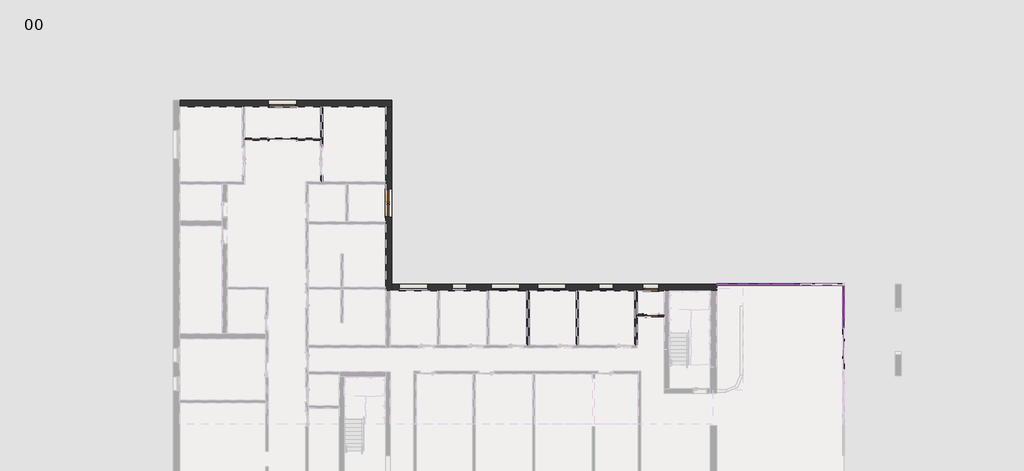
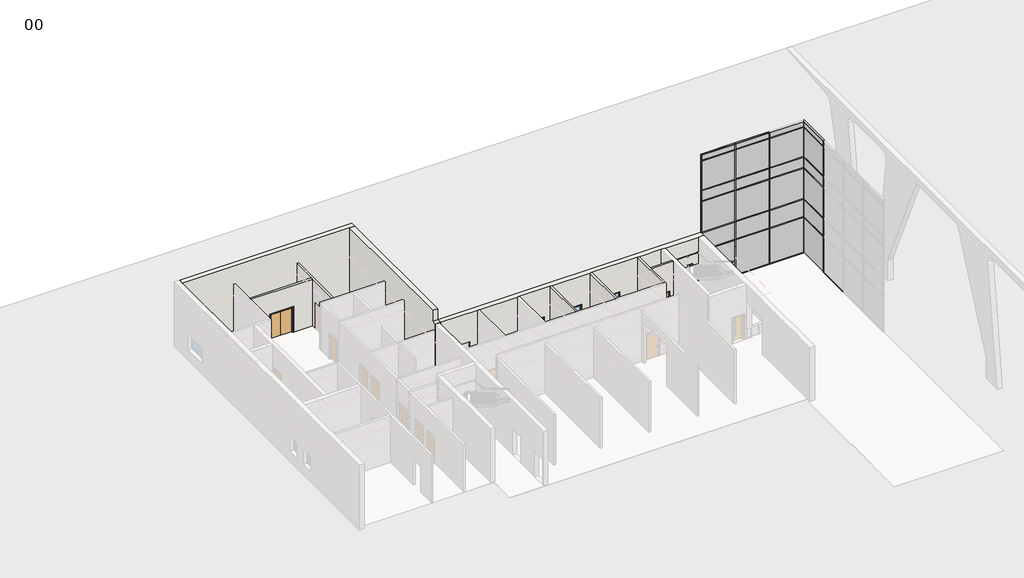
# One storey, part 7 of 11: 50 members, 24 plates, 9 walls, 5 doors, 3 windows.
"""IFC4 building model written with IfcOpenShell, lengths in millimetres."""

from ifc_helpers import new_model, si_unit, frame, origin, origin_with_axes, place, context, project, spatial, polyline, outline, extrude, faceted_brep, transform, mapped, element, save
from components import doors_concept_extdbl_1810x2110mm_68805f83, doors_concept_intdbl_1810x2110mm_1c066db9, doors_extsgl_flush_1010x2110mm_caf77e55, doors_intsgl_1_1010x2110mm_7920e6b8, doors_sco_extdbl_flush_1810x2110mm_3cdf6cdb, rectangular_mullion_curtainwallmullion_rectangular_generic_8ae0e668, rectangular_mullion_curtainwallmullion_rectangular_generic_15c16c91, rectangular_mullion_curtainwallmullion_rectangular_generic_08fbcc14, rectangular_mullion_curtainwallmullion_rectangular_generic_83e55909, rectangular_mullion_curtainwallmullion_rectangular_generic_5675a122, rectangular_mullion_curtainwallmullion_rectangular_generic_397fb318, rectangular_mullion_curtainwallmullion_rectangular_generic_55e77994, rectangular_mullion_curtainwallmullion_rectangular_generic_aee1ee25, rectangular_mullion_curtainwallmullion_rectangular_generic_ecbc4312, rectangular_mullion_curtainwallmullion_rectangular_generic_5eb3c60d, rectangular_mullion_curtainwallmullion_rectangular_generic_bd027367, rectangular_mullion_curtainwallmullion_rectangular_generic_2e425acd, rectangular_mullion_curtainwallmullion_rectangular_generic_12ad56c0, rectangular_mullion_curtainwallmullion_rectangular_generic_bd817207, rectangular_mullion_curtainwallmullion_rectangular_generic_654ac675, rectangular_mullion_curtainwallmullion_rectangular_generic_e7c47ca9, rectangular_mullion_curtainwallmullion_rectangular_generic_c0600e94, rectangular_mullion_curtainwallmullion_rectangular_generic_3bdb59d8, rectangular_mullion_curtainwallmullion_rectangular_generic_c640f651, rectangular_mullion_curtainwallmullion_rectangular_generic_afb0b622, rectangular_mullion_curtainwallmullion_rectangular_generic_b2d53351, rectangular_mullion_curtainwallmullion_rectangular_generic_d47b8a9d, system_panel_curtainpanel_glazed_34fb785a, system_panel_curtainpanel_glazed_e4a4eab4, system_panel_curtainpanel_glazed_add7ee21, system_panel_curtainpanel_glazed_62d472f1, system_panel_curtainpanel_glazed_085e24f9, system_panel_curtainpanel_glazed_61bd8d65, system_panel_curtainpanel_glazed_9c2ad216, system_panel_curtainpanel_glazed_ebc755d6, system_panel_curtainpanel_glazed_b0e91fb3, system_panel_curtainpanel_solid_dd3d5109, system_panel_curtainpanel_solid_473eca6b, system_panel_curtainpanel_solid_fc584997, system_panel_curtainpanel_solid_60141125, system_panel_curtainpanel_solid_58f7520c, system_panel_curtainpanel_solid_7c598b10, system_panel_curtainpanel_solid_5de49f81, system_panel_curtainpanel_solid_e1c9013e, system_panel_curtainpanel_solid_444add22, windows_concept_plain_sgl_1810x1210mm_7f7241d7, windows_concept_plain_sgl_910x1210mm_ef0b7ad2

model = new_model("IFC4")

# Units and contexts
model_context = context("Model", 3, world=origin())
ifc_project = project(units=[si_unit("LENGTHUNIT", "METRE", prefix="MILLI")], contexts=[model_context])

# Site, building, storey
site = spatial("IfcSite", under=ifc_project)
building = spatial("IfcBuilding", under=site)
storey = spatial("IfcBuildingStorey", under=building, Name="00", Elevation=0.0)

# Doors
placement = place(None, origin())
doors_concept_extdbl_1810x2110mm_shape = doors_concept_extdbl_1810x2110mm_68805f83(model_context)
element("IfcDoor", 1, ObjectType="Doors_Concept_ExtDbl : 1810x2110mm", at=placement, inside=storey, context=model_context, shape_type="MappedRepresentation", body=[
    mapped(doors_concept_extdbl_1810x2110mm_shape, transform((418436.3206883, -369614.0026386, 0.0), x_axis=(-1.0, 0.0, 0.0), y_axis=(0.0, -1.0, 0.0), z_axis=(0.0, 0.0, 1.0))),
])
doors_concept_intdbl_1810x2110mm_shape = doors_concept_intdbl_1810x2110mm_1c066db9(model_context)
element("IfcDoor", 2, ObjectType="Doors_Concept_IntDbl : 1810x2110mm", at=placement, inside=storey, context=model_context, shape_type="MappedRepresentation", body=[
    mapped(doors_concept_intdbl_1810x2110mm_shape, transform((418436.3206883, -371890.0026386, 0.0), x_axis=(-1.0, 0.0, 0.0), y_axis=(0.0, -1.0, 0.0), z_axis=(0.0, 0.0, 1.0))),
])
doors_extsgl_flush_1010x2110mm_shape = doors_extsgl_flush_1010x2110mm_caf77e55(model_context)
element("IfcDoor", 3, ObjectType="Doors_ExtSgl_Flush : 1010x2110mm", at=placement, inside=storey, context=model_context, shape_type="MappedRepresentation", body=[
    mapped(doors_extsgl_flush_1010x2110mm_shape, transform((441942.3206883, -381349.0026386, 0.0), x_axis=(1.0, 0.0, 0.0), y_axis=(0.0, 1.0, 0.0), z_axis=(0.0, 0.0, 1.0))),
])
doors_intsgl_1_1010x2110mm_shape = doors_intsgl_1_1010x2110mm_7920e6b8(model_context)
element("IfcDoor", 4, ObjectType="Doors_IntSgl_1 : 1010x2110mm", at=placement, inside=storey, context=model_context, shape_type="MappedRepresentation", body=[
    mapped(doors_intsgl_1_1010x2110mm_shape, transform((441942.3206883, -383125.0026386, 0.0), x_axis=(1.0, 0.0, 0.0), y_axis=(0.0, 1.0, 0.0), z_axis=(0.0, 0.0, 1.0))),
])
doors_sco_extdbl_flush_1810x2110mm_shape = doors_sco_extdbl_flush_1810x2110mm_3cdf6cdb(model_context)
element("IfcDoor", 5, ObjectType="Doors_SCO_ExtDbl_Flush : 1810x2110mm", at=placement, inside=storey, context=model_context, shape_type="MappedRepresentation", body=[
    mapped(doors_sco_extdbl_flush_1810x2110mm_shape, transform((425213.3206883, -375964.0026386, 0.0), x_axis=(0.0, 1.0, 0.0), y_axis=(-1.0, 0.0, 0.0), z_axis=(0.0, 0.0, 1.0))),
])

# Members
rectangular_mullion_curtainwallmullion_rectangular_generic_shape = rectangular_mullion_curtainwallmullion_rectangular_generic_8ae0e668(model_context)
element("IfcMember", 6, ObjectType="Rectangular Mullion : CurtainWallMullion_Rectangular_Generic", at=placement, inside=storey, context=model_context, shape_type="MappedRepresentation", body=[
    mapped(rectangular_mullion_curtainwallmullion_rectangular_generic_shape, transform((448817.3206884, -381170.0026386, 10486.7), x_axis=(1.0, 0.0, 0.0), y_axis=(0.0, -1.0, 0.0), z_axis=(0.0, 0.0, -1.0))),
])
element("IfcMember", 7, ObjectType="Rectangular Mullion : CurtainWallMullion_Rectangular_Generic", at=placement, inside=storey, context=model_context, shape_type="MappedRepresentation", body=[
    mapped(rectangular_mullion_curtainwallmullion_rectangular_generic_shape, transform((451519.3206882, -381170.0026386, 10486.7), x_axis=(1.0, 0.0, 0.0), y_axis=(0.0, -1.0, 0.0), z_axis=(0.0, 0.0, -1.0))),
])
element("IfcMember", 8, ObjectType="Rectangular Mullion : CurtainWallMullion_Rectangular_Generic", at=placement, inside=storey, context=model_context, shape_type="MappedRepresentation", body=[
    mapped(rectangular_mullion_curtainwallmullion_rectangular_generic_shape, transform((454246.3206883, -383909.6026389, 10486.7), x_axis=(0.0, -1.0, 0.0), y_axis=(-1.0, 0.0, 0.0), z_axis=(0.0, 0.0, -1.0))),
])
rectangular_mullion_curtainwallmullion_rectangular_generic_2_shape = rectangular_mullion_curtainwallmullion_rectangular_generic_15c16c91(model_context)
element("IfcMember", 9, ObjectType="Rectangular Mullion : CurtainWallMullion_Rectangular_Generic", at=placement, inside=storey, context=model_context, shape_type="MappedRepresentation", body=[
    mapped(rectangular_mullion_curtainwallmullion_rectangular_generic_2_shape, transform((446140.3206883, -381170.0026386, 10950.0), x_axis=(-1.0, 0.0, 0.0), y_axis=(0.0, -1.0, 0.0), z_axis=(0.0, 0.0, 1.0))),
])
rectangular_mullion_curtainwallmullion_rectangular_generic_3_shape = rectangular_mullion_curtainwallmullion_rectangular_generic_08fbcc14(model_context)
element("IfcMember", 10, ObjectType="Rectangular Mullion : CurtainWallMullion_Rectangular_Generic", at=placement, inside=storey, context=model_context, shape_type="MappedRepresentation", body=[
    mapped(rectangular_mullion_curtainwallmullion_rectangular_generic_3_shape, transform((454246.3206883, -383909.6026389, 8000.0), x_axis=(0.0, -1.0, 0.0), y_axis=(-1.0, 0.0, 0.0), z_axis=(0.0, 0.0, -1.0))),
])
element("IfcMember", 11, ObjectType="Rectangular Mullion : CurtainWallMullion_Rectangular_Generic", at=placement, inside=storey, context=model_context, shape_type="MappedRepresentation", body=[
    mapped(rectangular_mullion_curtainwallmullion_rectangular_generic_3_shape, transform((448817.3206884, -381170.0026386, 8000.0), x_axis=(1.0, 0.0, 0.0), y_axis=(0.0, -1.0, 0.0), z_axis=(0.0, 0.0, -1.0))),
])
element("IfcMember", 12, ObjectType="Rectangular Mullion : CurtainWallMullion_Rectangular_Generic", at=placement, inside=storey, context=model_context, shape_type="MappedRepresentation", body=[
    mapped(rectangular_mullion_curtainwallmullion_rectangular_generic_3_shape, transform((451519.3206882, -381170.0026386, 8000.0), x_axis=(1.0, 0.0, 0.0), y_axis=(0.0, -1.0, 0.0), z_axis=(0.0, 0.0, -1.0))),
])
rectangular_mullion_curtainwallmullion_rectangular_generic_4_shape = rectangular_mullion_curtainwallmullion_rectangular_generic_83e55909(model_context)
element("IfcMember", 13, ObjectType="Rectangular Mullion : CurtainWallMullion_Rectangular_Generic", at=placement, inside=storey, context=model_context, shape_type="MappedRepresentation", body=[
    mapped(rectangular_mullion_curtainwallmullion_rectangular_generic_4_shape, transform((446140.3206883, -381170.0026386, 10486.7), x_axis=(-1.0, 0.0, 0.0), y_axis=(0.0, -1.0, 0.0), z_axis=(0.0, 0.0, 1.0))),
])
rectangular_mullion_curtainwallmullion_rectangular_generic_5_shape = rectangular_mullion_curtainwallmullion_rectangular_generic_5675a122(model_context)
element("IfcMember", 14, ObjectType="Rectangular Mullion : CurtainWallMullion_Rectangular_Generic", at=placement, inside=storey, context=model_context, shape_type="MappedRepresentation", body=[
    mapped(rectangular_mullion_curtainwallmullion_rectangular_generic_5_shape, transform((448817.3206884, -381170.0026386, 50.0), x_axis=(1.0, 0.0, 0.0), y_axis=(0.0, -1.0, 0.0), z_axis=(0.0, 0.0, -1.0))),
])
element("IfcMember", 15, ObjectType="Rectangular Mullion : CurtainWallMullion_Rectangular_Generic", at=placement, inside=storey, context=model_context, shape_type="MappedRepresentation", body=[
    mapped(rectangular_mullion_curtainwallmullion_rectangular_generic_5_shape, transform((451519.3206882, -381170.0026386, 50.0), x_axis=(1.0, 0.0, 0.0), y_axis=(0.0, -1.0, 0.0), z_axis=(0.0, 0.0, -1.0))),
])
element("IfcMember", 16, ObjectType="Rectangular Mullion : CurtainWallMullion_Rectangular_Generic", at=placement, inside=storey, context=model_context, shape_type="MappedRepresentation", body=[
    mapped(rectangular_mullion_curtainwallmullion_rectangular_generic_5_shape, transform((454246.3206883, -383909.6026389, 50.0), x_axis=(0.0, -1.0, 0.0), y_axis=(-1.0, 0.0, 0.0), z_axis=(0.0, 0.0, -1.0))),
])
rectangular_mullion_curtainwallmullion_rectangular_generic_6_shape = rectangular_mullion_curtainwallmullion_rectangular_generic_397fb318(model_context)
element("IfcMember", 17, ObjectType="Rectangular Mullion : CurtainWallMullion_Rectangular_Generic", at=placement, inside=storey, context=model_context, shape_type="MappedRepresentation", body=[
    mapped(rectangular_mullion_curtainwallmullion_rectangular_generic_6_shape, transform((446140.3206883, -381170.0026386, 2425.0), x_axis=(-1.0, 0.0, 0.0), y_axis=(0.0, -1.0, 0.0), z_axis=(0.0, 0.0, 1.0))),
])
rectangular_mullion_curtainwallmullion_rectangular_generic_7_shape = rectangular_mullion_curtainwallmullion_rectangular_generic_55e77994(model_context)
element("IfcMember", 18, ObjectType="Rectangular Mullion : CurtainWallMullion_Rectangular_Generic", at=placement, inside=storey, context=model_context, shape_type="MappedRepresentation", body=[
    mapped(rectangular_mullion_curtainwallmullion_rectangular_generic_7_shape, transform((454246.3206883, -383909.6026389, 11000.0), x_axis=(0.0, 0.0, 1.0), y_axis=(-1.0, 0.0, 0.0), z_axis=(0.0, -1.0, 0.0))),
])
rectangular_mullion_curtainwallmullion_rectangular_generic_8_shape = rectangular_mullion_curtainwallmullion_rectangular_generic_aee1ee25(model_context)
element("IfcMember", 19, ObjectType="Rectangular Mullion : CurtainWallMullion_Rectangular_Generic", at=placement, inside=storey, context=model_context, shape_type="MappedRepresentation", body=[
    mapped(rectangular_mullion_curtainwallmullion_rectangular_generic_8_shape, transform((448817.3206884, -381170.0026386, 11000.0), x_axis=(0.0, 0.0, 1.0), y_axis=(0.0, -1.0, 0.0), z_axis=(1.0, 0.0, 0.0))),
])
rectangular_mullion_curtainwallmullion_rectangular_generic_9_shape = rectangular_mullion_curtainwallmullion_rectangular_generic_ecbc4312(model_context)
element("IfcMember", 20, ObjectType="Rectangular Mullion : CurtainWallMullion_Rectangular_Generic", at=placement, inside=storey, context=model_context, shape_type="MappedRepresentation", body=[
    mapped(rectangular_mullion_curtainwallmullion_rectangular_generic_9_shape, transform((451519.3206882, -381170.0026386, 11000.0), x_axis=(0.0, 0.0, 1.0), y_axis=(0.0, -1.0, 0.0), z_axis=(1.0, 0.0, 0.0))),
])
element("IfcMember", 21, ObjectType="Rectangular Mullion : CurtainWallMullion_Rectangular_Generic", at=placement, inside=storey, context=model_context, shape_type="MappedRepresentation", body=[
    mapped(rectangular_mullion_curtainwallmullion_rectangular_generic_8_shape, transform((446140.3206883, -381170.0026386, 0.0), x_axis=(0.0, 0.0, -1.0), y_axis=(0.0, -1.0, 0.0), z_axis=(-1.0, 0.0, 0.0))),
])
element("IfcMember", 22, ObjectType="Rectangular Mullion : CurtainWallMullion_Rectangular_Generic", at=placement, inside=storey, context=model_context, shape_type="MappedRepresentation", body=[
    mapped(rectangular_mullion_curtainwallmullion_rectangular_generic_9_shape, transform((448817.3206884, -381170.0026386, 0.0), x_axis=(0.0, 0.0, -1.0), y_axis=(0.0, -1.0, 0.0), z_axis=(-1.0, 0.0, 0.0))),
])
rectangular_mullion_curtainwallmullion_rectangular_generic_10_shape = rectangular_mullion_curtainwallmullion_rectangular_generic_5eb3c60d(model_context)
element("IfcMember", 23, ObjectType="Rectangular Mullion : CurtainWallMullion_Rectangular_Generic", at=placement, inside=storey, context=model_context, shape_type="MappedRepresentation", body=[
    mapped(rectangular_mullion_curtainwallmullion_rectangular_generic_10_shape, transform((451519.3206882, -381170.0026386, 0.0), x_axis=(0.0, 0.0, -1.0), y_axis=(0.0, -1.0, 0.0), z_axis=(-1.0, 0.0, 0.0))),
])
rectangular_mullion_curtainwallmullion_rectangular_generic_11_shape = rectangular_mullion_curtainwallmullion_rectangular_generic_bd027367(model_context)
element("IfcMember", 24, ObjectType="Rectangular Mullion : CurtainWallMullion_Rectangular_Generic", at=placement, inside=storey, context=model_context, shape_type="MappedRepresentation", body=[
    mapped(rectangular_mullion_curtainwallmullion_rectangular_generic_11_shape, transform((448792.3206884, -381170.0026386, 4500.0), x_axis=(0.0, 0.0, 1.0), y_axis=(0.0, -1.0, 0.0), z_axis=(1.0, 0.0, 0.0))),
])
element("IfcMember", 25, ObjectType="Rectangular Mullion : CurtainWallMullion_Rectangular_Generic", at=placement, inside=storey, context=model_context, shape_type="MappedRepresentation", body=[
    mapped(rectangular_mullion_curtainwallmullion_rectangular_generic_11_shape, transform((448792.3206884, -381170.0026386, 7100.0), x_axis=(0.0, 0.0, 1.0), y_axis=(0.0, -1.0, 0.0), z_axis=(1.0, 0.0, 0.0))),
])
element("IfcMember", 26, ObjectType="Rectangular Mullion : CurtainWallMullion_Rectangular_Generic", at=placement, inside=storey, context=model_context, shape_type="MappedRepresentation", body=[
    mapped(rectangular_mullion_curtainwallmullion_rectangular_generic_11_shape, transform((448792.3206884, -381170.0026386, 10486.7), x_axis=(0.0, 0.0, 1.0), y_axis=(0.0, -1.0, 0.0), z_axis=(1.0, 0.0, 0.0))),
])
element("IfcMember", 27, ObjectType="Rectangular Mullion : CurtainWallMullion_Rectangular_Generic", at=placement, inside=storey, context=model_context, shape_type="MappedRepresentation", body=[
    mapped(rectangular_mullion_curtainwallmullion_rectangular_generic_11_shape, transform((448792.3206884, -381170.0026386, 8000.0), x_axis=(0.0, 0.0, 1.0), y_axis=(0.0, -1.0, 0.0), z_axis=(1.0, 0.0, 0.0))),
])
element("IfcMember", 28, ObjectType="Rectangular Mullion : CurtainWallMullion_Rectangular_Generic", at=placement, inside=storey, context=model_context, shape_type="MappedRepresentation", body=[
    mapped(rectangular_mullion_curtainwallmullion_rectangular_generic_11_shape, transform((448792.3206884, -381170.0026386, 3000.0), x_axis=(0.0, 0.0, 1.0), y_axis=(0.0, -1.0, 0.0), z_axis=(1.0, 0.0, 0.0))),
])
rectangular_mullion_curtainwallmullion_rectangular_generic_12_shape = rectangular_mullion_curtainwallmullion_rectangular_generic_2e425acd(model_context)
element("IfcMember", 29, ObjectType="Rectangular Mullion : CurtainWallMullion_Rectangular_Generic", at=placement, inside=storey, context=model_context, shape_type="MappedRepresentation", body=[
    mapped(rectangular_mullion_curtainwallmullion_rectangular_generic_12_shape, transform((451494.3206882, -381170.0026386, 4500.0), x_axis=(0.0, 0.0, 1.0), y_axis=(0.0, -1.0, 0.0), z_axis=(1.0, 0.0, 0.0))),
])
element("IfcMember", 30, ObjectType="Rectangular Mullion : CurtainWallMullion_Rectangular_Generic", at=placement, inside=storey, context=model_context, shape_type="MappedRepresentation", body=[
    mapped(rectangular_mullion_curtainwallmullion_rectangular_generic_12_shape, transform((451494.3206882, -381170.0026386, 7100.0), x_axis=(0.0, 0.0, 1.0), y_axis=(0.0, -1.0, 0.0), z_axis=(1.0, 0.0, 0.0))),
])
element("IfcMember", 31, ObjectType="Rectangular Mullion : CurtainWallMullion_Rectangular_Generic", at=placement, inside=storey, context=model_context, shape_type="MappedRepresentation", body=[
    mapped(rectangular_mullion_curtainwallmullion_rectangular_generic_12_shape, transform((451494.3206882, -381170.0026386, 10486.7), x_axis=(0.0, 0.0, 1.0), y_axis=(0.0, -1.0, 0.0), z_axis=(1.0, 0.0, 0.0))),
])
element("IfcMember", 32, ObjectType="Rectangular Mullion : CurtainWallMullion_Rectangular_Generic", at=placement, inside=storey, context=model_context, shape_type="MappedRepresentation", body=[
    mapped(rectangular_mullion_curtainwallmullion_rectangular_generic_12_shape, transform((451494.3206882, -381170.0026386, 8000.0), x_axis=(0.0, 0.0, 1.0), y_axis=(0.0, -1.0, 0.0), z_axis=(1.0, 0.0, 0.0))),
])
element("IfcMember", 33, ObjectType="Rectangular Mullion : CurtainWallMullion_Rectangular_Generic", at=placement, inside=storey, context=model_context, shape_type="MappedRepresentation", body=[
    mapped(rectangular_mullion_curtainwallmullion_rectangular_generic_12_shape, transform((451494.3206882, -381170.0026386, 3000.0), x_axis=(0.0, 0.0, 1.0), y_axis=(0.0, -1.0, 0.0), z_axis=(1.0, 0.0, 0.0))),
])
rectangular_mullion_curtainwallmullion_rectangular_generic_13_shape = rectangular_mullion_curtainwallmullion_rectangular_generic_12ad56c0(model_context)
element("IfcMember", 34, ObjectType="Rectangular Mullion : CurtainWallMullion_Rectangular_Generic", at=placement, inside=storey, context=model_context, shape_type="MappedRepresentation", body=[
    mapped(rectangular_mullion_curtainwallmullion_rectangular_generic_13_shape, transform((454246.3206883, -383909.6026389, 0.0), x_axis=(0.0, 0.0, -1.0), y_axis=(-1.0, 0.0, 0.0), z_axis=(0.0, 1.0, 0.0))),
])
rectangular_mullion_curtainwallmullion_rectangular_generic_14_shape = rectangular_mullion_curtainwallmullion_rectangular_generic_bd817207(model_context)
element("IfcMember", 35, ObjectType="Rectangular Mullion : CurtainWallMullion_Rectangular_Generic", at=placement, inside=storey, context=model_context, shape_type="MappedRepresentation", body=[
    mapped(rectangular_mullion_curtainwallmullion_rectangular_generic_14_shape, transform((454246.3206883, -383884.6026389, 4500.0), x_axis=(0.0, 0.0, 1.0), y_axis=(-1.0, 0.0, 0.0), z_axis=(0.0, -1.0, 0.0))),
])
element("IfcMember", 36, ObjectType="Rectangular Mullion : CurtainWallMullion_Rectangular_Generic", at=placement, inside=storey, context=model_context, shape_type="MappedRepresentation", body=[
    mapped(rectangular_mullion_curtainwallmullion_rectangular_generic_14_shape, transform((454246.3206883, -383884.6026389, 7100.0), x_axis=(0.0, 0.0, 1.0), y_axis=(-1.0, 0.0, 0.0), z_axis=(0.0, -1.0, 0.0))),
])
element("IfcMember", 37, ObjectType="Rectangular Mullion : CurtainWallMullion_Rectangular_Generic", at=placement, inside=storey, context=model_context, shape_type="MappedRepresentation", body=[
    mapped(rectangular_mullion_curtainwallmullion_rectangular_generic_14_shape, transform((454246.3206883, -383884.6026389, 10486.7), x_axis=(0.0, 0.0, 1.0), y_axis=(-1.0, 0.0, 0.0), z_axis=(0.0, -1.0, 0.0))),
])
element("IfcMember", 38, ObjectType="Rectangular Mullion : CurtainWallMullion_Rectangular_Generic", at=placement, inside=storey, context=model_context, shape_type="MappedRepresentation", body=[
    mapped(rectangular_mullion_curtainwallmullion_rectangular_generic_14_shape, transform((454246.3206883, -383884.6026389, 8000.0), x_axis=(0.0, 0.0, 1.0), y_axis=(-1.0, 0.0, 0.0), z_axis=(0.0, -1.0, 0.0))),
])
element("IfcMember", 39, ObjectType="Rectangular Mullion : CurtainWallMullion_Rectangular_Generic", at=placement, inside=storey, context=model_context, shape_type="MappedRepresentation", body=[
    mapped(rectangular_mullion_curtainwallmullion_rectangular_generic_14_shape, transform((454246.3206883, -383884.6026389, 3000.0), x_axis=(0.0, 0.0, 1.0), y_axis=(-1.0, 0.0, 0.0), z_axis=(0.0, -1.0, 0.0))),
])
rectangular_mullion_curtainwallmullion_rectangular_generic_15_shape = rectangular_mullion_curtainwallmullion_rectangular_generic_654ac675(model_context)
element("IfcMember", 40, ObjectType="Rectangular Mullion : CurtainWallMullion_Rectangular_Generic", at=placement, inside=storey, context=model_context, shape_type="MappedRepresentation", body=[
    mapped(rectangular_mullion_curtainwallmullion_rectangular_generic_15_shape, transform((448817.3206884, -381170.0026386, 4500.0), x_axis=(1.0, 0.0, 0.0), y_axis=(0.0, -1.0, 0.0), z_axis=(0.0, 0.0, -1.0))),
])
element("IfcMember", 41, ObjectType="Rectangular Mullion : CurtainWallMullion_Rectangular_Generic", at=placement, inside=storey, context=model_context, shape_type="MappedRepresentation", body=[
    mapped(rectangular_mullion_curtainwallmullion_rectangular_generic_15_shape, transform((451519.3206882, -381170.0026386, 4500.0), x_axis=(1.0, 0.0, 0.0), y_axis=(0.0, -1.0, 0.0), z_axis=(0.0, 0.0, -1.0))),
])
element("IfcMember", 42, ObjectType="Rectangular Mullion : CurtainWallMullion_Rectangular_Generic", at=placement, inside=storey, context=model_context, shape_type="MappedRepresentation", body=[
    mapped(rectangular_mullion_curtainwallmullion_rectangular_generic_15_shape, transform((454246.3206883, -383909.6026389, 4500.0), x_axis=(0.0, -1.0, 0.0), y_axis=(-1.0, 0.0, 0.0), z_axis=(0.0, 0.0, -1.0))),
])
rectangular_mullion_curtainwallmullion_rectangular_generic_16_shape = rectangular_mullion_curtainwallmullion_rectangular_generic_e7c47ca9(model_context)
element("IfcMember", 43, ObjectType="Rectangular Mullion : CurtainWallMullion_Rectangular_Generic", at=placement, inside=storey, context=model_context, shape_type="MappedRepresentation", body=[
    mapped(rectangular_mullion_curtainwallmullion_rectangular_generic_16_shape, transform((446140.3206883, -381170.0026386, 7100.0), x_axis=(-1.0, 0.0, 0.0), y_axis=(0.0, -1.0, 0.0), z_axis=(0.0, 0.0, 1.0))),
])
rectangular_mullion_curtainwallmullion_rectangular_generic_17_shape = rectangular_mullion_curtainwallmullion_rectangular_generic_c0600e94(model_context)
element("IfcMember", 44, ObjectType="Rectangular Mullion : CurtainWallMullion_Rectangular_Generic", at=placement, inside=storey, context=model_context, shape_type="MappedRepresentation", body=[
    mapped(rectangular_mullion_curtainwallmullion_rectangular_generic_17_shape, transform((454246.3206883, -383909.6026389, 3000.0), x_axis=(0.0, -1.0, 0.0), y_axis=(-1.0, 0.0, 0.0), z_axis=(0.0, 0.0, -1.0))),
])
element("IfcMember", 45, ObjectType="Rectangular Mullion : CurtainWallMullion_Rectangular_Generic", at=placement, inside=storey, context=model_context, shape_type="MappedRepresentation", body=[
    mapped(rectangular_mullion_curtainwallmullion_rectangular_generic_17_shape, transform((448817.3206884, -381170.0026386, 3000.0), x_axis=(1.0, 0.0, 0.0), y_axis=(0.0, -1.0, 0.0), z_axis=(0.0, 0.0, -1.0))),
])
element("IfcMember", 46, ObjectType="Rectangular Mullion : CurtainWallMullion_Rectangular_Generic", at=placement, inside=storey, context=model_context, shape_type="MappedRepresentation", body=[
    mapped(rectangular_mullion_curtainwallmullion_rectangular_generic_17_shape, transform((451519.3206882, -381170.0026386, 3000.0), x_axis=(1.0, 0.0, 0.0), y_axis=(0.0, -1.0, 0.0), z_axis=(0.0, 0.0, -1.0))),
])
rectangular_mullion_curtainwallmullion_rectangular_generic_18_shape = rectangular_mullion_curtainwallmullion_rectangular_generic_3bdb59d8(model_context)
element("IfcMember", 47, ObjectType="Rectangular Mullion : CurtainWallMullion_Rectangular_Generic", at=placement, inside=storey, context=model_context, shape_type="MappedRepresentation", body=[
    mapped(rectangular_mullion_curtainwallmullion_rectangular_generic_18_shape, transform((446140.3206883, -381170.0026386, 4500.0), x_axis=(-1.0, 0.0, 0.0), y_axis=(0.0, -1.0, 0.0), z_axis=(0.0, 0.0, 1.0))),
])
rectangular_mullion_curtainwallmullion_rectangular_generic_19_shape = rectangular_mullion_curtainwallmullion_rectangular_generic_c640f651(model_context)
element("IfcMember", 48, ObjectType="Rectangular Mullion : CurtainWallMullion_Rectangular_Generic", at=placement, inside=storey, context=model_context, shape_type="MappedRepresentation", body=[
    mapped(rectangular_mullion_curtainwallmullion_rectangular_generic_19_shape, transform((448817.3206884, -381170.0026386, 7100.0), x_axis=(1.0, 0.0, 0.0), y_axis=(0.0, -1.0, 0.0), z_axis=(0.0, 0.0, -1.0))),
])
element("IfcMember", 49, ObjectType="Rectangular Mullion : CurtainWallMullion_Rectangular_Generic", at=placement, inside=storey, context=model_context, shape_type="MappedRepresentation", body=[
    mapped(rectangular_mullion_curtainwallmullion_rectangular_generic_19_shape, transform((451519.3206882, -381170.0026386, 7100.0), x_axis=(1.0, 0.0, 0.0), y_axis=(0.0, -1.0, 0.0), z_axis=(0.0, 0.0, -1.0))),
])
element("IfcMember", 50, ObjectType="Rectangular Mullion : CurtainWallMullion_Rectangular_Generic", at=placement, inside=storey, context=model_context, shape_type="MappedRepresentation", body=[
    mapped(rectangular_mullion_curtainwallmullion_rectangular_generic_19_shape, transform((454246.3206883, -383909.6026389, 7100.0), x_axis=(0.0, -1.0, 0.0), y_axis=(-1.0, 0.0, 0.0), z_axis=(0.0, 0.0, -1.0))),
])
rectangular_mullion_curtainwallmullion_rectangular_generic_20_shape = rectangular_mullion_curtainwallmullion_rectangular_generic_afb0b622(model_context)
element("IfcMember", 51, ObjectType="Rectangular Mullion : CurtainWallMullion_Rectangular_Generic", at=placement, inside=storey, context=model_context, shape_type="MappedRepresentation", body=[
    mapped(rectangular_mullion_curtainwallmullion_rectangular_generic_20_shape, transform((446140.3206883, -381170.0026386, 8000.0), x_axis=(-1.0, 0.0, 0.0), y_axis=(0.0, -1.0, 0.0), z_axis=(0.0, 0.0, 1.0))),
])
rectangular_mullion_curtainwallmullion_rectangular_generic_21_shape = rectangular_mullion_curtainwallmullion_rectangular_generic_b2d53351(model_context)
element("IfcMember", 52, ObjectType="Rectangular Mullion : CurtainWallMullion_Rectangular_Generic", at=placement, inside=storey, context=model_context, shape_type="MappedRepresentation", body=[
    mapped(rectangular_mullion_curtainwallmullion_rectangular_generic_21_shape, transform((448817.3206884, -381170.0026386, 2425.0), x_axis=(1.0, 0.0, 0.0), y_axis=(0.0, -1.0, 0.0), z_axis=(0.0, 0.0, -1.0))),
])
element("IfcMember", 53, ObjectType="Rectangular Mullion : CurtainWallMullion_Rectangular_Generic", at=placement, inside=storey, context=model_context, shape_type="MappedRepresentation", body=[
    mapped(rectangular_mullion_curtainwallmullion_rectangular_generic_21_shape, transform((451519.3206882, -381170.0026386, 2425.0), x_axis=(1.0, 0.0, 0.0), y_axis=(0.0, -1.0, 0.0), z_axis=(0.0, 0.0, -1.0))),
])
element("IfcMember", 54, ObjectType="Rectangular Mullion : CurtainWallMullion_Rectangular_Generic", at=placement, inside=storey, context=model_context, shape_type="MappedRepresentation", body=[
    mapped(rectangular_mullion_curtainwallmullion_rectangular_generic_21_shape, transform((454246.3206883, -383909.6026389, 2425.0), x_axis=(0.0, -1.0, 0.0), y_axis=(-1.0, 0.0, 0.0), z_axis=(0.0, 0.0, -1.0))),
])
rectangular_mullion_curtainwallmullion_rectangular_generic_22_shape = rectangular_mullion_curtainwallmullion_rectangular_generic_d47b8a9d(model_context)
element("IfcMember", 55, ObjectType="Rectangular Mullion : CurtainWallMullion_Rectangular_Generic", at=placement, inside=storey, context=model_context, shape_type="MappedRepresentation", body=[
    mapped(rectangular_mullion_curtainwallmullion_rectangular_generic_22_shape, transform((446140.3206883, -381170.0026386, 3000.0), x_axis=(-1.0, 0.0, 0.0), y_axis=(0.0, -1.0, 0.0), z_axis=(0.0, 0.0, 1.0))),
])

# Plates
system_panel_curtainpanel_glazed_shape = system_panel_curtainpanel_glazed_34fb785a(model_context)
element("IfcPlate", 56, ObjectType="System Panel : CurtainPanel_Glazed", at=placement, inside=storey, context=model_context, shape_type="MappedRepresentation", body=[
    mapped(system_panel_curtainpanel_glazed_shape, transform((454246.3206883, -382552.3026387, 8025.0), x_axis=(0.0, -1.0, 0.0), y_axis=(1.0, 0.0, 0.0), z_axis=(0.0, 0.0, 1.0))),
])
system_panel_curtainpanel_glazed_2_shape = system_panel_curtainpanel_glazed_e4a4eab4(model_context)
element("IfcPlate", 57, ObjectType="System Panel : CurtainPanel_Glazed", at=placement, inside=storey, context=model_context, shape_type="MappedRepresentation", body=[
    mapped(system_panel_curtainpanel_glazed_2_shape, transform((447491.3206884, -381170.0026386, 8025.0), x_axis=(1.0, 0.0, 0.0), y_axis=(0.0, 1.0, 0.0), z_axis=(0.0, 0.0, 1.0))),
])
system_panel_curtainpanel_glazed_3_shape = system_panel_curtainpanel_glazed_add7ee21(model_context)
element("IfcPlate", 58, ObjectType="System Panel : CurtainPanel_Glazed", at=placement, inside=storey, context=model_context, shape_type="MappedRepresentation", body=[
    mapped(system_panel_curtainpanel_glazed_3_shape, transform((450168.3206883, -381170.0026386, 8025.0), x_axis=(1.0, 0.0, 0.0), y_axis=(0.0, 1.0, 0.0), z_axis=(0.0, 0.0, 1.0))),
])
element("IfcPlate", 59, ObjectType="System Panel : CurtainPanel_Glazed", at=placement, inside=storey, context=model_context, shape_type="MappedRepresentation", body=[
    mapped(system_panel_curtainpanel_glazed_3_shape, transform((452870.3206883, -381170.0026386, 8025.0), x_axis=(1.0, 0.0, 0.0), y_axis=(0.0, 1.0, 0.0), z_axis=(0.0, 0.0, 1.0))),
])
system_panel_curtainpanel_glazed_4_shape = system_panel_curtainpanel_glazed_62d472f1(model_context)
element("IfcPlate", 60, ObjectType="System Panel : CurtainPanel_Glazed", at=placement, inside=storey, context=model_context, shape_type="MappedRepresentation", body=[
    mapped(system_panel_curtainpanel_glazed_4_shape, transform((454246.3206883, -382552.3026387, 50.0), x_axis=(0.0, -1.0, 0.0), y_axis=(1.0, 0.0, 0.0), z_axis=(0.0, 0.0, 1.0))),
])
system_panel_curtainpanel_glazed_5_shape = system_panel_curtainpanel_glazed_085e24f9(model_context)
element("IfcPlate", 61, ObjectType="System Panel : CurtainPanel_Glazed", at=placement, inside=storey, context=model_context, shape_type="MappedRepresentation", body=[
    mapped(system_panel_curtainpanel_glazed_5_shape, transform((447491.3206884, -381170.0026386, 50.0), x_axis=(1.0, 0.0, 0.0), y_axis=(0.0, 1.0, 0.0), z_axis=(0.0, 0.0, 1.0))),
])
system_panel_curtainpanel_glazed_6_shape = system_panel_curtainpanel_glazed_61bd8d65(model_context)
element("IfcPlate", 62, ObjectType="System Panel : CurtainPanel_Glazed", at=placement, inside=storey, context=model_context, shape_type="MappedRepresentation", body=[
    mapped(system_panel_curtainpanel_glazed_6_shape, transform((450168.3206883, -381170.0026386, 50.0), x_axis=(1.0, 0.0, 0.0), y_axis=(0.0, 1.0, 0.0), z_axis=(0.0, 0.0, 1.0))),
])
element("IfcPlate", 63, ObjectType="System Panel : CurtainPanel_Glazed", at=placement, inside=storey, context=model_context, shape_type="MappedRepresentation", body=[
    mapped(system_panel_curtainpanel_glazed_6_shape, transform((452870.3206883, -381170.0026386, 50.0), x_axis=(1.0, 0.0, 0.0), y_axis=(0.0, 1.0, 0.0), z_axis=(0.0, 0.0, 1.0))),
])
system_panel_curtainpanel_glazed_7_shape = system_panel_curtainpanel_glazed_9c2ad216(model_context)
element("IfcPlate", 64, ObjectType="System Panel : CurtainPanel_Glazed", at=placement, inside=storey, context=model_context, shape_type="MappedRepresentation", body=[
    mapped(system_panel_curtainpanel_glazed_7_shape, transform((454246.3206883, -382552.3026387, 4525.0), x_axis=(0.0, -1.0, 0.0), y_axis=(1.0, 0.0, 0.0), z_axis=(0.0, 0.0, 1.0))),
])
system_panel_curtainpanel_glazed_8_shape = system_panel_curtainpanel_glazed_ebc755d6(model_context)
element("IfcPlate", 65, ObjectType="System Panel : CurtainPanel_Glazed", at=placement, inside=storey, context=model_context, shape_type="MappedRepresentation", body=[
    mapped(system_panel_curtainpanel_glazed_8_shape, transform((447491.3206884, -381170.0026386, 4525.0), x_axis=(1.0, 0.0, 0.0), y_axis=(0.0, 1.0, 0.0), z_axis=(0.0, 0.0, 1.0))),
])
system_panel_curtainpanel_glazed_9_shape = system_panel_curtainpanel_glazed_b0e91fb3(model_context)
element("IfcPlate", 66, ObjectType="System Panel : CurtainPanel_Glazed", at=placement, inside=storey, context=model_context, shape_type="MappedRepresentation", body=[
    mapped(system_panel_curtainpanel_glazed_9_shape, transform((450168.3206883, -381170.0026386, 4525.0), x_axis=(1.0, 0.0, 0.0), y_axis=(0.0, 1.0, 0.0), z_axis=(0.0, 0.0, 1.0))),
])
element("IfcPlate", 67, ObjectType="System Panel : CurtainPanel_Glazed", at=placement, inside=storey, context=model_context, shape_type="MappedRepresentation", body=[
    mapped(system_panel_curtainpanel_glazed_9_shape, transform((452870.3206883, -381170.0026386, 4525.0), x_axis=(1.0, 0.0, 0.0), y_axis=(0.0, 1.0, 0.0), z_axis=(0.0, 0.0, 1.0))),
])
system_panel_curtainpanel_solid_shape = system_panel_curtainpanel_solid_dd3d5109(model_context)
element("IfcPlate", 68, ObjectType="System Panel : CurtainPanel_Solid", at=placement, inside=storey, context=model_context, shape_type="MappedRepresentation", body=[
    mapped(system_panel_curtainpanel_solid_shape, transform((447491.3206884, -381170.0026386, 10511.7), x_axis=(1.0, 0.0, 0.0), y_axis=(0.0, 1.0, 0.0), z_axis=(0.0, 0.0, 1.0))),
])
system_panel_curtainpanel_solid_2_shape = system_panel_curtainpanel_solid_473eca6b(model_context)
element("IfcPlate", 69, ObjectType="System Panel : CurtainPanel_Solid", at=placement, inside=storey, context=model_context, shape_type="MappedRepresentation", body=[
    mapped(system_panel_curtainpanel_solid_2_shape, transform((450168.3206883, -381170.0026386, 10511.7), x_axis=(1.0, 0.0, 0.0), y_axis=(0.0, 1.0, 0.0), z_axis=(0.0, 0.0, 1.0))),
])
element("IfcPlate", 70, ObjectType="System Panel : CurtainPanel_Solid", at=placement, inside=storey, context=model_context, shape_type="MappedRepresentation", body=[
    mapped(system_panel_curtainpanel_solid_2_shape, transform((452870.3206883, -381170.0026386, 10511.7), x_axis=(1.0, 0.0, 0.0), y_axis=(0.0, 1.0, 0.0), z_axis=(0.0, 0.0, 1.0))),
])
system_panel_curtainpanel_solid_3_shape = system_panel_curtainpanel_solid_fc584997(model_context)
element("IfcPlate", 71, ObjectType="System Panel : CurtainPanel_Solid", at=placement, inside=storey, context=model_context, shape_type="MappedRepresentation", body=[
    mapped(system_panel_curtainpanel_solid_3_shape, transform((454246.3206883, -382552.3026387, 10511.7), x_axis=(0.0, -1.0, 0.0), y_axis=(1.0, 0.0, 0.0), z_axis=(0.0, 0.0, 1.0))),
])
system_panel_curtainpanel_solid_4_shape = system_panel_curtainpanel_solid_60141125(model_context)
element("IfcPlate", 72, ObjectType="System Panel : CurtainPanel_Solid", at=placement, inside=storey, context=model_context, shape_type="MappedRepresentation", body=[
    mapped(system_panel_curtainpanel_solid_4_shape, transform((454246.3206883, -382552.3026387, 3025.0), x_axis=(0.0, -1.0, 0.0), y_axis=(1.0, 0.0, 0.0), z_axis=(0.0, 0.0, 1.0))),
])
system_panel_curtainpanel_solid_5_shape = system_panel_curtainpanel_solid_58f7520c(model_context)
element("IfcPlate", 73, ObjectType="System Panel : CurtainPanel_Solid", at=placement, inside=storey, context=model_context, shape_type="MappedRepresentation", body=[
    mapped(system_panel_curtainpanel_solid_5_shape, transform((447491.3206884, -381170.0026386, 3025.0), x_axis=(1.0, 0.0, 0.0), y_axis=(0.0, 1.0, 0.0), z_axis=(0.0, 0.0, 1.0))),
])
system_panel_curtainpanel_solid_6_shape = system_panel_curtainpanel_solid_7c598b10(model_context)
element("IfcPlate", 74, ObjectType="System Panel : CurtainPanel_Solid", at=placement, inside=storey, context=model_context, shape_type="MappedRepresentation", body=[
    mapped(system_panel_curtainpanel_solid_6_shape, transform((450168.3206883, -381170.0026386, 3025.0), x_axis=(1.0, 0.0, 0.0), y_axis=(0.0, 1.0, 0.0), z_axis=(0.0, 0.0, 1.0))),
])
element("IfcPlate", 75, ObjectType="System Panel : CurtainPanel_Solid", at=placement, inside=storey, context=model_context, shape_type="MappedRepresentation", body=[
    mapped(system_panel_curtainpanel_solid_6_shape, transform((452870.3206883, -381170.0026386, 3025.0), x_axis=(1.0, 0.0, 0.0), y_axis=(0.0, 1.0, 0.0), z_axis=(0.0, 0.0, 1.0))),
])
system_panel_curtainpanel_solid_7_shape = system_panel_curtainpanel_solid_5de49f81(model_context)
element("IfcPlate", 76, ObjectType="System Panel : CurtainPanel_Solid", at=placement, inside=storey, context=model_context, shape_type="MappedRepresentation", body=[
    mapped(system_panel_curtainpanel_solid_7_shape, transform((454246.3206883, -382552.3026387, 7125.0), x_axis=(0.0, -1.0, 0.0), y_axis=(1.0, 0.0, 0.0), z_axis=(0.0, 0.0, 1.0))),
])
system_panel_curtainpanel_solid_8_shape = system_panel_curtainpanel_solid_e1c9013e(model_context)
element("IfcPlate", 77, ObjectType="System Panel : CurtainPanel_Solid", at=placement, inside=storey, context=model_context, shape_type="MappedRepresentation", body=[
    mapped(system_panel_curtainpanel_solid_8_shape, transform((447491.3206884, -381170.0026386, 7125.0), x_axis=(1.0, 0.0, 0.0), y_axis=(0.0, 1.0, 0.0), z_axis=(0.0, 0.0, 1.0))),
])
system_panel_curtainpanel_solid_9_shape = system_panel_curtainpanel_solid_444add22(model_context)
element("IfcPlate", 78, ObjectType="System Panel : CurtainPanel_Solid", at=placement, inside=storey, context=model_context, shape_type="MappedRepresentation", body=[
    mapped(system_panel_curtainpanel_solid_9_shape, transform((450168.3206883, -381170.0026386, 7125.0), x_axis=(1.0, 0.0, 0.0), y_axis=(0.0, 1.0, 0.0), z_axis=(0.0, 0.0, 1.0))),
])
element("IfcPlate", 79, ObjectType="System Panel : CurtainPanel_Solid", at=placement, inside=storey, context=model_context, shape_type="MappedRepresentation", body=[
    mapped(system_panel_curtainpanel_solid_9_shape, transform((452870.3206883, -381170.0026386, 7125.0), x_axis=(1.0, 0.0, 0.0), y_axis=(0.0, 1.0, 0.0), z_axis=(0.0, 0.0, 1.0))),
])

# Walls
element("IfcWall", 80, ObjectType="Wall_Exterior_WSUK", at=placement, inside=storey, context=model_context, shape_type="Brep", body=[
    faceted_brep([(411860.3206883, -369815.0026386, -1000.0), (425012.3206883, -369815.0026386, -1000.0), (425414.3206883, -369815.0026386, -1000.0), (425414.3206883, -369815.0026386, 5400.0), (425012.3206883, -369815.0026386, 5400.0), (411860.3206883, -369815.0026386, 5400.0), (419341.3206883, -369815.0026386, 2110.0), (419341.3206883, -369815.0026386, 0.0), (417531.3206883, -369815.0026386, 0.0), (417531.3206883, -369815.0026386, 2110.0), (425414.3206883, -369413.0026386, -1000.0), (411860.3206883, -369413.0026386, -1000.0), (411860.3206883, -369413.0026386, 5400.0), (425414.3206883, -369413.0026386, 5400.0), (419341.3206883, -369413.0026386, 0.0), (419341.3206883, -369413.0026386, 2110.0), (417531.3206883, -369413.0026386, 2110.0), (417531.3206883, -369413.0026386, 0.0)], [[[0, 1, 2, 3, 4, 5], [6, 7, 8, 9]], [[10, 11, 12, 13], [14, 15, 16, 17]], [[2, 1, 0, 11, 10]], [[5, 4, 3, 13, 12]], [[3, 2, 10, 13]], [[6, 15, 14, 7]], [[7, 14, 17, 8]], [[8, 17, 16, 9]], [[15, 6, 9, 16]], [[0, 5, 12, 11]]]),
])
element("IfcWall", 81, ObjectType="Wall_Exterior_WSUK", at=placement, inside=storey, context=model_context, shape_type="Brep", body=[
    faceted_brep([(425012.3206883, -369815.0026386, -1000.0), (425012.3206883, -381550.0026386, -1000.0), (425012.3206883, -381550.0026386, 4500.0), (425012.3206883, -381148.0026386, 4500.0), (425012.3206883, -381148.0026386, 5400.0), (425012.3206883, -369815.0026386, 5400.0), (425012.3206883, -376844.0026386, 0.0), (425012.3206883, -375084.0026386, 0.0), (425012.3206883, -375084.0026386, 2110.0), (425012.3206883, -376844.0026386, 2110.0), (425414.3206883, -381550.0026386, -1000.0), (425414.3206883, -381148.0026386, -1000.0), (425414.3206883, -369815.0026386, -1000.0), (425414.3206883, -369815.0026386, 5400.0), (425414.3206883, -381148.0026386, 5400.0), (425414.3206883, -381148.0026386, 4500.0), (425414.3206883, -381550.0026386, 4500.0), (425414.3206883, -375059.0026386, 2110.0), (425414.3206883, -375059.0026386, 0.0), (425414.3206883, -376869.0026386, 0.0), (425414.3206883, -376869.0026386, 2110.0), (425322.3206883, -381550.0026386, -1000.0), (425114.8206883, -376869.0026386, 2110.0), (425114.8206883, -376869.0026386, 0.0), (425114.8206883, -376844.0026386, 0.0), (425114.8206883, -376844.0026386, 2110.0), (425114.8206883, -375059.0026386, 0.0), (425114.8206883, -375059.0026386, 2110.0), (425114.8206883, -375084.0026386, 2110.0), (425114.8206883, -375084.0026386, 0.0), (425322.3206883, -381550.0026386, 4500.0)], [[[0, 1, 2, 3, 4, 5], [6, 7, 8, 9]], [[10, 11, 12, 13, 14, 15, 16], [17, 18, 19, 20]], [[1, 0, 12, 11, 10, 21]], [[5, 4, 14, 13]], [[0, 5, 13, 12]], [[22, 23, 24, 25]], [[26, 27, 28, 29]], [[27, 26, 18, 17]], [[24, 23, 19, 18, 26, 29, 7, 6]], [[23, 22, 20, 19]], [[22, 25, 9, 8, 28, 27, 17, 20]], [[25, 24, 6, 9]], [[29, 28, 8, 7]], [[3, 2, 30, 16, 15]], [[1, 21, 10, 16, 30, 2]], [[14, 4, 3, 15]]]),
])
element("IfcWall", 82, ObjectType="Wall_Exterior_WSUK", at=placement, inside=storey, context=model_context, shape_type="Brep", body=[
    faceted_brep([(425414.3206883, -381550.0026386, 4500.0), (425414.3206883, -381550.0026386, -1000.0), (442792.3206883, -381550.0026386, -1000.0), (443102.3206883, -381550.0026386, -1000.0), (445738.3206883, -381550.0026386, -1000.0), (446140.3206883, -381550.0026386, -1000.0), (446140.3206883, -381550.0026386, 4500.0), (445738.3206883, -381550.0026386, 4500.0), (443102.3206883, -381550.0026386, 4500.0), (442792.3206883, -381550.0026386, 4500.0), (441072.3206883, -381550.0026386, 4500.0), (440922.3206883, -381550.0026386, 4500.0), (437322.3206883, -381550.0026386, 4500.0), (437172.3206883, -381550.0026386, 4500.0), (434172.3206883, -381550.0026386, 4500.0), (434022.3206883, -381550.0026386, 4500.0), (431622.3206883, -381550.0026386, 4500.0), (431472.3206883, -381550.0026386, 4500.0), (428472.3206883, -381550.0026386, 4500.0), (428322.3206883, -381550.0026386, 4500.0), (441437.3206883, -381550.0026386, 2110.0), (442447.3206883, -381550.0026386, 2110.0), (442447.3206883, -381550.0026386, 0.0), (441437.3206883, -381550.0026386, 0.0), (427693.3206883, -381550.0026386, 2110.0), (427693.3206883, -381550.0026386, 900.0), (425883.3206883, -381550.0026386, 900.0), (425883.3206883, -381550.0026386, 2110.0), (430185.3206883, -381550.0026386, 2110.0), (430185.3206883, -381550.0026386, 900.0), (429275.3206883, -381550.0026386, 900.0), (429275.3206883, -381550.0026386, 2110.0), (433577.3206883, -381550.0026386, 2110.0), (433577.3206883, -381550.0026386, 900.0), (431767.3206883, -381550.0026386, 900.0), (431767.3206883, -381550.0026386, 2110.0), (436519.3206883, -381550.0026386, 2110.0), (436519.3206883, -381550.0026386, 900.0), (434709.3206883, -381550.0026386, 900.0), (434709.3206883, -381550.0026386, 2110.0), (439531.3206883, -381550.0026386, 2110.0), (439531.3206883, -381550.0026386, 900.0), (438621.3206883, -381550.0026386, 900.0), (438621.3206883, -381550.0026386, 2110.0), (425414.3206883, -381148.0026386, -1000.0), (425414.3206883, -381148.0026386, 4500.0), (446140.3206883, -381148.0026386, 4500.0), (446140.3206883, -381148.0026386, -1000.0), (441437.3206883, -381148.0026386, 2110.0), (441437.3206883, -381148.0026386, 0.0), (442447.3206883, -381148.0026386, 0.0), (442447.3206883, -381148.0026386, 2110.0), (427693.3206883, -381148.0026386, 2110.0), (425883.3206883, -381148.0026386, 2110.0), (425883.3206883, -381148.0026386, 900.0), (427693.3206883, -381148.0026386, 900.0), (430185.3206883, -381148.0026386, 2110.0), (429275.3206883, -381148.0026386, 2110.0), (429275.3206883, -381148.0026386, 900.0), (430185.3206883, -381148.0026386, 900.0), (433577.3206883, -381148.0026386, 2110.0), (431767.3206883, -381148.0026386, 2110.0), (431767.3206883, -381148.0026386, 900.0), (433577.3206883, -381148.0026386, 900.0), (436519.3206883, -381148.0026386, 2110.0), (434709.3206883, -381148.0026386, 2110.0), (434709.3206883, -381148.0026386, 900.0), (436519.3206883, -381148.0026386, 900.0), (439531.3206883, -381148.0026386, 2110.0), (438621.3206883, -381148.0026386, 2110.0), (438621.3206883, -381148.0026386, 900.0), (439531.3206883, -381148.0026386, 900.0)], [[[0, 1, 2, 3, 4, 5, 6, 7, 8, 9, 10, 11, 12, 13, 14, 15, 16, 17, 18, 19], [20, 21, 22, 23], [24, 25, 26, 27], [28, 29, 30, 31], [32, 33, 34, 35], [36, 37, 38, 39], [40, 41, 42, 43]], [[44, 45, 46, 47], [48, 49, 50, 51], [52, 53, 54, 55], [56, 57, 58, 59], [60, 61, 62, 63], [64, 65, 66, 67], [68, 69, 70, 71]], [[5, 4, 3, 2, 1, 44, 47]], [[0, 19, 18, 17, 16, 15, 14, 13, 12, 11, 10, 9, 8, 7, 6, 46, 45]], [[49, 48, 20, 23]], [[50, 49, 23, 22]], [[51, 50, 22, 21]], [[48, 51, 21, 20]], [[6, 5, 47, 46]], [[25, 24, 52, 55]], [[26, 25, 55, 54]], [[27, 26, 54, 53]], [[24, 27, 53, 52]], [[29, 28, 56, 59]], [[30, 29, 59, 58]], [[31, 30, 58, 57]], [[28, 31, 57, 56]], [[33, 32, 60, 63]], [[34, 33, 63, 62]], [[35, 34, 62, 61]], [[32, 35, 61, 60]], [[37, 36, 64, 67]], [[38, 37, 67, 66]], [[39, 38, 66, 65]], [[36, 39, 65, 64]], [[41, 40, 68, 71]], [[42, 41, 71, 70]], [[43, 42, 70, 69]], [[40, 43, 69, 68]], [[0, 45, 44, 1]]]),
])
element("IfcWall", 83, ObjectType="Wall_Interior_WSUK", at=placement, inside=storey, context=model_context, shape_type="Brep", body=[
    faceted_brep([(441072.3206883, -385049.0026386, 0.0), (441072.3206883, -383200.0026386, 0.0), (441072.3206883, -383050.0026386, 0.0), (441072.3206883, -381550.0026386, 0.0), (441072.3206883, -381550.0026386, 4500.0), (441072.3206883, -383050.0026386, 4500.0), (441072.3206883, -383200.0026386, 4500.0), (441072.3206883, -385049.0026386, 4500.0), (440922.3206883, -385049.0026386, 0.0), (440922.3206883, -385049.0026386, 4500.0), (440922.3206883, -381550.0026386, 4500.0), (440922.3206883, -381550.0026386, 0.0)], [[[0, 1, 2, 3, 4, 5, 6, 7]], [[8, 9, 10, 11]], [[3, 2, 1, 0, 8, 11]], [[7, 6, 5, 4, 10, 9]], [[0, 7, 9, 8]], [[4, 3, 11, 10]]]),
])
element("IfcWall", 84, ObjectType="Wall_Interior_WSUK", at=placement, inside=storey, context=model_context, shape_type="SweptSolid", body=[
    extrude(outline(polyline([(437322.3206883, -381550.0026386), (437322.3206883, -385049.0026386), (437172.3206883, -385049.0026386), (437172.3206883, -381550.0026386), (437322.3206883, -381550.0026386)])), origin_with_axes(), (0.0, 0.0, 1.0), 4500.0),
])
element("IfcWall", 85, ObjectType="Wall_Interior_WSUK", at=placement, inside=storey, context=model_context, shape_type="SweptSolid", body=[
    extrude(outline(polyline([(434172.3206883, -381550.0026386), (434172.3206883, -385049.0026386), (434022.3206883, -385049.0026386), (434022.3206883, -381550.0026386), (434172.3206883, -381550.0026386)])), origin_with_axes(), (0.0, 0.0, 1.0), 4500.0),
])
element("IfcWall", 86, ObjectType="Wall_Interior_WSUK", at=placement, inside=storey, context=model_context, shape_type="SweptSolid", body=[
    extrude(outline(polyline([(4500.0, 442792.3206883), (4500.0, 441072.3206883), (0.0, 441072.3206883), (0.0, 441437.3206883), (2110.0, 441437.3206883), (2110.0, 442447.3206883), (0.0, 442447.3206883), (0.0, 442792.3206883), (4500.0, 442792.3206883)])), frame((0.0, -383200.0026386, 0.0), z_axis=(0.0, 1.0, 0.0), x_axis=(0.0, 0.0, 1.0)), (0.0, 0.0, 1.0), 150.0),
])
element("IfcWall", 87, ObjectType="Wall_Interior_WSUK", at=placement, inside=storey, context=model_context, shape_type="SweptSolid", body=[
    extrude(outline(polyline([(3900.0, 420862.3206883), (3900.0, 416010.3206883), (0.0, 416010.3206883), (0.0, 417531.3206883), (2110.0, 417531.3206883), (2110.0, 419341.3206883), (0.0, 419341.3206883), (0.0, 420862.3206883), (3900.0, 420862.3206883)])), frame((0.0, -371965.0026386, 0.0), z_axis=(0.0, 1.0, 0.0), x_axis=(0.0, 0.0, 1.0)), (0.0, 0.0, 1.0), 150.0),
])
element("IfcWall", 88, ObjectType="Wall_Interior_WSUK", at=placement, inside=storey, context=model_context, shape_type="Brep", body=[
    faceted_brep([(421012.3206883, -369815.0026386, 3900.0), (421012.3206883, -374614.0026386, 3900.0), (421012.3206883, -374614.0026386, 0.0), (421012.3206883, -374194.5026386, 0.0), (421012.3206883, -374194.5026386, 2110.0), (421012.3206883, -372384.5026386, 2110.0), (421012.3206883, -372384.5026386, 0.0), (421012.3206883, -369815.0026386, 0.0), (420862.3206883, -374614.0026386, 3900.0), (420862.3206883, -371965.0026386, 3900.0), (420862.3206883, -371815.0026386, 3900.0), (420862.3206883, -369815.0026386, 3900.0), (420862.3206883, -369815.0026386, 0.0), (420862.3206883, -371815.0026386, 0.0), (420862.3206883, -371965.0026386, 0.0), (420862.3206883, -372384.5026386, 0.0), (420862.3206883, -372384.5026386, 2110.0), (420862.3206883, -374194.5026386, 2110.0), (420862.3206883, -374194.5026386, 0.0), (420862.3206883, -374614.0026386, 0.0)], [[[0, 1, 2, 3, 4, 5, 6, 7]], [[8, 9, 10, 11, 12, 13, 14, 15, 16, 17, 18, 19]], [[12, 7, 6, 15, 14, 13]], [[2, 19, 18, 3]], [[1, 0, 11, 10, 9, 8]], [[0, 7, 12, 11]], [[2, 1, 8, 19]], [[5, 16, 15, 6]], [[16, 5, 4, 17]], [[17, 4, 3, 18]]]),
])

# Windows
windows_concept_plain_sgl_1810x1210mm_shape = windows_concept_plain_sgl_1810x1210mm_7f7241d7(model_context)
element("IfcWindow", 89, ObjectType="Windows_Concept_Plain_Sgl : 1810x1210mm", at=placement, inside=storey, context=model_context, shape_type="MappedRepresentation", body=[
    mapped(windows_concept_plain_sgl_1810x1210mm_shape, transform((432672.3206883, -381340.5460708, 0.0), x_axis=(-1.0, 0.0, 0.0), y_axis=(0.0, -1.0, 0.0), z_axis=(0.0, 0.0, 1.0))),
])
element("IfcWindow", 90, ObjectType="Windows_Concept_Plain_Sgl : 1810x1210mm", at=placement, inside=storey, context=model_context, shape_type="MappedRepresentation", body=[
    mapped(windows_concept_plain_sgl_1810x1210mm_shape, transform((435614.3206883, -381340.5460708, 0.0), x_axis=(-1.0, 0.0, 0.0), y_axis=(0.0, -1.0, 0.0), z_axis=(0.0, 0.0, 1.0))),
])
windows_concept_plain_sgl_910x1210mm_shape = windows_concept_plain_sgl_910x1210mm_ef0b7ad2(model_context)
element("IfcWindow", 91, ObjectType="Windows_Concept_Plain_Sgl : 910x1210mm", at=placement, inside=storey, context=model_context, shape_type="MappedRepresentation", body=[
    mapped(windows_concept_plain_sgl_910x1210mm_shape, transform((439076.3206883, -381340.5460708, 0.0), x_axis=(-1.0, 0.0, 0.0), y_axis=(0.0, -1.0, 0.0), z_axis=(0.0, 0.0, 1.0))),
])

save(model, "model.ifc")
